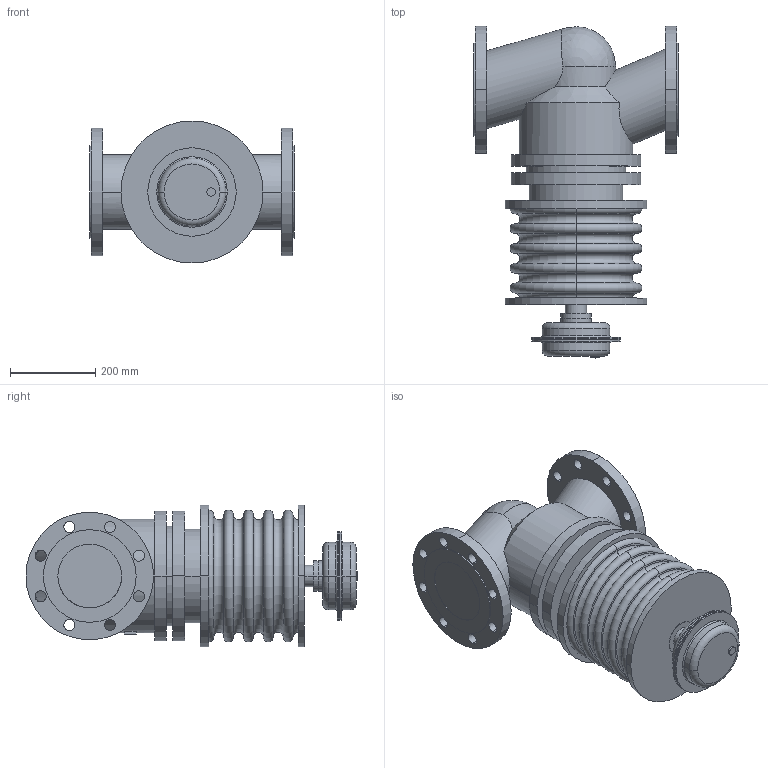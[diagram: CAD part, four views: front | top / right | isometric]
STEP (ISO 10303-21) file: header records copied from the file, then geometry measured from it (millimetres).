
FILE_DESCRIPTION(('Creo Elements/Direct Modeling STEP Export'),'2;1');
FILE_NAME('c000004962.stp','2012-06-25T12:49:23',(''),(''),'Creo Elements/Direct Modeling STEP processor for AP203 (Solid Model)','Creo Elements/Direct Modeling 17.0D 15-Jul-2011 (C) Parametric Technology GmbH','');
FILE_SCHEMA(('CONFIG_CONTROL_DESIGN'));
Length unit declared in the file: millimetre
Products named in the file (2): 1; 2
Bounding box: 480 x 781 x 334 mm (x, y, z)
Volume: 45514115 mm3; surface area: 1440575.1 mm2
Topology: 2 solids, 2 shells, 174 faces, 409 edges, 262 vertices
Faces by surface type: cylinder 83, plane 42, torus 28, cone 20, sphere 1
Entity records: 5427 total; most frequent: CARTESIAN_POINT 1054, ORIENTED_EDGE 814, DIRECTION 760, SURFACE_CURVE 407, EDGE_CURVE 407, AXIS2_PLACEMENT_3D 313, VERTEX_POINT 262, EDGE_LOOP 231
